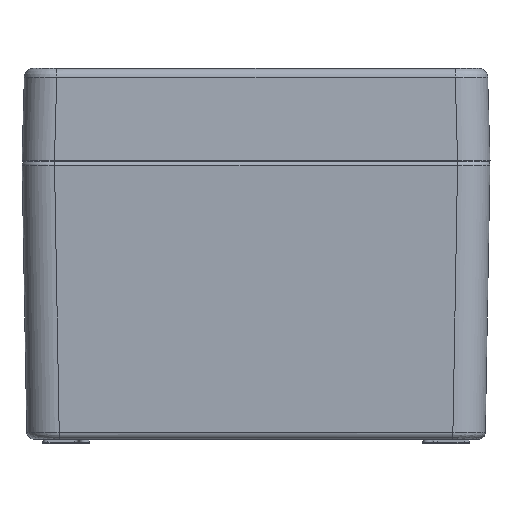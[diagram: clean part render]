
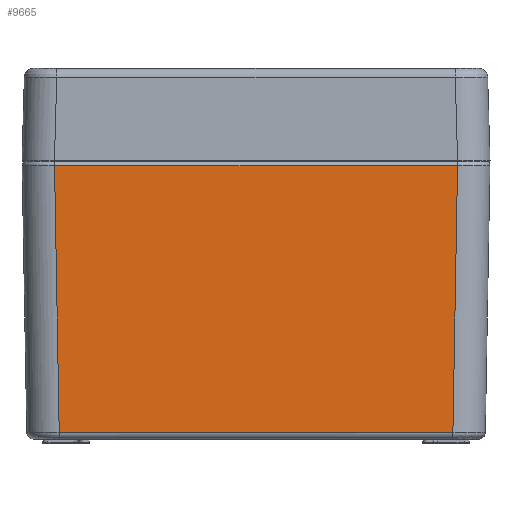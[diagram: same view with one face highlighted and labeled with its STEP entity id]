
A CAD part, front view. The second image highlights one B-rep face of the part: STEP entity #9665.
In plain terms, the highlighted planar face has unit normal (0, -1, -0.018).
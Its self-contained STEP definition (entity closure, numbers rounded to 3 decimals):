
#75 = EDGE_CURVE ( 'NONE', #14016, #27474, #9004, .T. ) ;
#493 = LINE ( 'NONE', #11608, #22745 ) ;
#760 = DIRECTION ( 'NONE',  ( 0., -1., -0.017 ) ) ;
#1276 = CARTESIAN_POINT ( 'NONE',  ( 0., -50.482, -1.017 ) ) ;
#3446 = VECTOR ( 'NONE', #21267, 1000. ) ;
#3513 = FACE_OUTER_BOUND ( 'NONE', #26022, .T. ) ;
#5351 = ORIENTED_EDGE ( 'NONE', *, *, #19085, .F. ) ;
#5424 = AXIS2_PLACEMENT_3D ( 'NONE', #22437, #760, #24566 ) ;
#6255 = CARTESIAN_POINT ( 'NONE',  ( -43.483, -50.482, -1.017 ) ) ;
#7123 = DIRECTION ( 'NONE',  ( -0.017, -0.017, 1. ) ) ;
#7430 = LINE ( 'NONE', #12678, #3446 ) ;
#7643 = CARTESIAN_POINT ( 'NONE',  ( 42.479, -49.478, -58.526 ) ) ;
#9004 = LINE ( 'NONE', #9345, #22207 ) ;
#9345 = CARTESIAN_POINT ( 'NONE',  ( 42.479, -49.478, -58.526 ) ) ;
#9487 = VERTEX_POINT ( 'NONE', #6255 ) ;
#9647 = EDGE_CURVE ( 'NONE', #10566, #9487, #493, .T. ) ;
#9665 = ADVANCED_FACE ( 'NONE', ( #3513 ), #13682, .T. ) ;
#10460 = LINE ( 'NONE', #1276, #26930 ) ;
#10566 = VERTEX_POINT ( 'NONE', #25660 ) ;
#11608 = CARTESIAN_POINT ( 'NONE',  ( -42.977, -49.976, -30. ) ) ;
#12678 = CARTESIAN_POINT ( 'NONE',  ( -0.086, -49.478, -58.526 ) ) ;
#13682 = PLANE ( 'NONE',  #5424 ) ;
#14016 = VERTEX_POINT ( 'NONE', #7643 ) ;
#17871 = DIRECTION ( 'NONE',  ( 0.017, -0.017, 1. ) ) ;
#17886 = ORIENTED_EDGE ( 'NONE', *, *, #20449, .T. ) ;
#19085 = EDGE_CURVE ( 'NONE', #14016, #10566, #7430, .T. ) ;
#19558 = CARTESIAN_POINT ( 'NONE',  ( 43.483, -50.482, -1.017 ) ) ;
#20449 = EDGE_CURVE ( 'NONE', #27474, #9487, #10460, .T. ) ;
#21267 = DIRECTION ( 'NONE',  ( -1., 0., 0. ) ) ;
#22207 = VECTOR ( 'NONE', #17871, 1000. ) ;
#22437 = CARTESIAN_POINT ( 'NONE',  ( 0., -50.5, 0. ) ) ;
#22745 = VECTOR ( 'NONE', #7123, 1000. ) ;
#22779 = ORIENTED_EDGE ( 'NONE', *, *, #75, .T. ) ;
#24566 = DIRECTION ( 'NONE',  ( 0., 0.017, -1. ) ) ;
#25256 = DIRECTION ( 'NONE',  ( -1., 0., 0. ) ) ;
#25660 = CARTESIAN_POINT ( 'NONE',  ( -42.479, -49.478, -58.526 ) ) ;
#26022 = EDGE_LOOP ( 'NONE', ( #22779, #17886, #26589, #5351 ) ) ;
#26589 = ORIENTED_EDGE ( 'NONE', *, *, #9647, .F. ) ;
#26930 = VECTOR ( 'NONE', #25256, 1000. ) ;
#27474 = VERTEX_POINT ( 'NONE', #19558 ) ;
